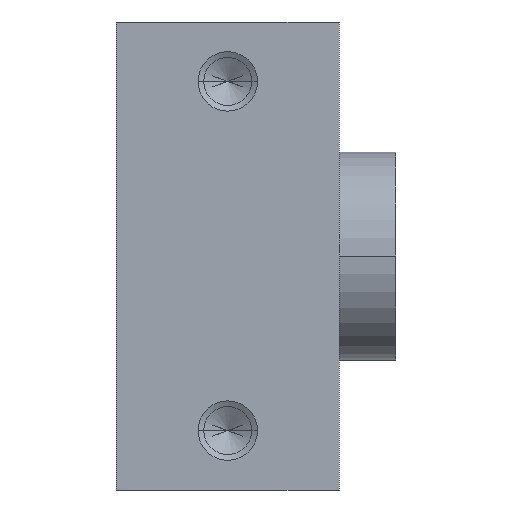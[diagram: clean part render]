
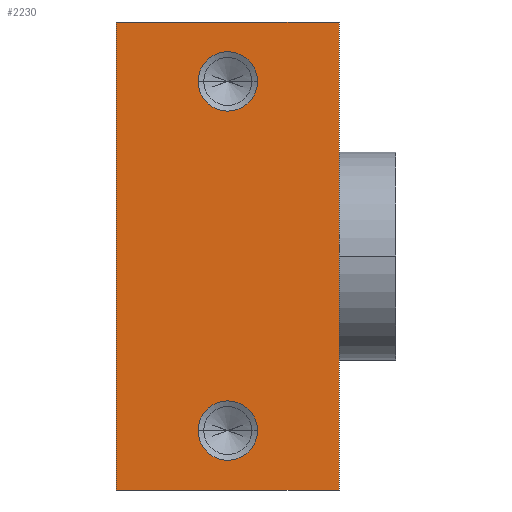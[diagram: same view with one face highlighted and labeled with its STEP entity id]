
A CAD part, front view. The second image highlights one B-rep face of the part: STEP entity #2230.
In plain terms, the highlighted planar face has unit normal (0, -1, 0).
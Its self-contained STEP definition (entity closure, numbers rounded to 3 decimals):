
#1320=CARTESIAN_POINT('',(-15.,-30.2,31.5));
#1330=VERTEX_POINT('',#1320);
#1380=CARTESIAN_POINT('',(-15.,-30.2,0.));
#1390=DIRECTION('',(0.,0.,1.));
#1400=VECTOR('',#1390,1.);
#1410=LINE('',#1380,#1400);
#1420=CARTESIAN_POINT('',(-15.,-30.2,-31.5));
#1430=VERTEX_POINT('',#1420);
#1440=EDGE_CURVE('',#1430,#1330,#1410,.T.);
#1630=CARTESIAN_POINT('',(15.,-30.2,31.5));
#1640=DIRECTION('',(0.,-1.,0.));
#1650=DIRECTION('',(1.,0.,0.));
#1660=AXIS2_PLACEMENT_3D('',#1630,#1640,#1650);
#1670=PLANE('',#1660);
#1680=CARTESIAN_POINT('',(0.,-30.2,31.5));
#1690=DIRECTION('',(1.,0.,0.));
#1700=VECTOR('',#1690,1.);
#1710=LINE('',#1680,#1700);
#1720=CARTESIAN_POINT('',(15.,-30.2,31.5));
#1730=VERTEX_POINT('',#1720);
#1740=EDGE_CURVE('',#1330,#1730,#1710,.T.);
#1750=ORIENTED_EDGE('',*,*,#1740,.F.);
#1760=CARTESIAN_POINT('',(15.,-30.2,0.));
#1770=DIRECTION('',(0.,0.,1.));
#1780=VECTOR('',#1770,1.);
#1790=LINE('',#1760,#1780);
#1800=CARTESIAN_POINT('',(15.,-30.2,-31.5));
#1810=VERTEX_POINT('',#1800);
#1820=EDGE_CURVE('',#1810,#1730,#1790,.T.);
#1830=ORIENTED_EDGE('',*,*,#1820,.T.);
#1840=CARTESIAN_POINT('',(0.,-30.2,-31.5));
#1850=DIRECTION('',(-1.,0.,0.));
#1860=VECTOR('',#1850,1.);
#1870=LINE('',#1840,#1860);
#1880=EDGE_CURVE('',#1810,#1430,#1870,.T.);
#1890=ORIENTED_EDGE('',*,*,#1880,.F.);
#1900=ORIENTED_EDGE('',*,*,#1440,.F.);
#1910=EDGE_LOOP('',(#1900,#1890,#1830,#1750));
#1920=FACE_OUTER_BOUND('',#1910,.T.);
#1930=CARTESIAN_POINT('',(0.,-30.2,-23.5));
#1940=DIRECTION('',(0.,-1.,0.));
#1950=DIRECTION('',(-1.,0.,0.));
#1960=AXIS2_PLACEMENT_3D('',#1930,#1940,#1950);
#1970=CIRCLE('',#1960,4.);
#1980=CARTESIAN_POINT('',(-4.,-30.2,-23.5));
#1990=VERTEX_POINT('',#1980);
#2000=CARTESIAN_POINT('',(4.,-30.2,-23.5));
#2010=VERTEX_POINT('',#2000);
#2020=EDGE_CURVE('',#1990,#2010,#1970,.T.);
#2030=ORIENTED_EDGE('',*,*,#2020,.F.);
#2040=EDGE_CURVE('',#2010,#1990,#1970,.T.);
#2050=ORIENTED_EDGE('',*,*,#2040,.F.);
#2060=EDGE_LOOP('',(#2050,#2030));
#2070=FACE_BOUND('',#2060,.T.);
#2080=CARTESIAN_POINT('',(0.,-30.2,23.5));
#2090=DIRECTION('',(0.,-1.,0.));
#2100=DIRECTION('',(-1.,0.,0.));
#2110=AXIS2_PLACEMENT_3D('',#2080,#2090,#2100);
#2120=CIRCLE('',#2110,4.);
#2130=CARTESIAN_POINT('',(-4.,-30.2,23.5));
#2140=VERTEX_POINT('',#2130);
#2150=CARTESIAN_POINT('',(4.,-30.2,23.5));
#2160=VERTEX_POINT('',#2150);
#2170=EDGE_CURVE('',#2140,#2160,#2120,.T.);
#2180=ORIENTED_EDGE('',*,*,#2170,.F.);
#2190=EDGE_CURVE('',#2160,#2140,#2120,.T.);
#2200=ORIENTED_EDGE('',*,*,#2190,.F.);
#2210=EDGE_LOOP('',(#2200,#2180));
#2220=FACE_BOUND('',#2210,.T.);
#2230=ADVANCED_FACE('',(#1920,#2070,#2220),#1670,.T.);
